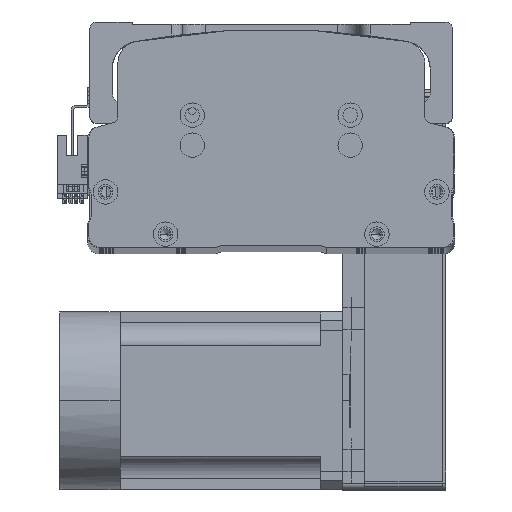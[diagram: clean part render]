
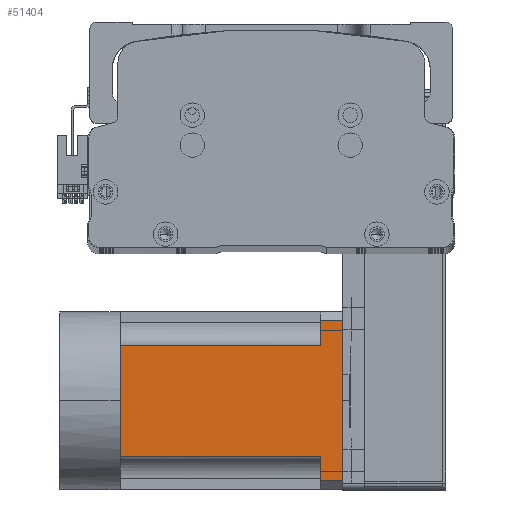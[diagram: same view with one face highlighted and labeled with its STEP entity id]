
A CAD part, top view. The second image highlights one B-rep face of the part: STEP entity #51404.
In plain terms, the highlighted planar face has unit normal (0, 0, 1) as drawn and (0, 0, -1) by its records, which use the part's own axes.
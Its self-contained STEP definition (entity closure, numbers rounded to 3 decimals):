
#546 = EDGE_CURVE ( 'NONE', #62791, #7762, #40500, .T. ) ;
#779 = CARTESIAN_POINT ( 'NONE',  ( -25., -27., -40. ) ) ;
#1536 = LINE ( 'NONE', #3391, #40121 ) ;
#3231 = VERTEX_POINT ( 'NONE', #22191 ) ;
#3391 = CARTESIAN_POINT ( 'NONE',  ( -40., 90., -40. ) ) ;
#6053 = DIRECTION ( 'NONE',  ( 0., 1., 0. ) ) ;
#7392 = LINE ( 'NONE', #40406, #47573 ) ;
#7762 = VERTEX_POINT ( 'NONE', #7945 ) ;
#7945 = CARTESIAN_POINT ( 'NONE',  ( -36., 90., -40. ) ) ;
#8671 = DIRECTION ( 'NONE',  ( -1., 0., 0. ) ) ;
#9011 = DIRECTION ( 'NONE',  ( -1., 0., 0. ) ) ;
#9409 = ORIENTED_EDGE ( 'NONE', *, *, #19018, .T. ) ;
#9985 = CARTESIAN_POINT ( 'NONE',  ( 25., 90., -40. ) ) ;
#9987 = VECTOR ( 'NONE', #6053, 1000. ) ;
#14056 = DIRECTION ( 'NONE',  ( 0., 0., -1. ) ) ;
#14927 = EDGE_CURVE ( 'NONE', #44709, #38847, #65291, .T. ) ;
#16312 = CARTESIAN_POINT ( 'NONE',  ( 36., -27., -40. ) ) ;
#17372 = EDGE_CURVE ( 'NONE', #3231, #45386, #41229, .T. ) ;
#18692 = EDGE_CURVE ( 'NONE', #7762, #23780, #26185, .T. ) ;
#19018 = EDGE_CURVE ( 'NONE', #38847, #27234, #1536, .T. ) ;
#20635 = ORIENTED_EDGE ( 'NONE', *, *, #52297, .T. ) ;
#21456 = CARTESIAN_POINT ( 'NONE',  ( 25., 0., -40. ) ) ;
#22191 = CARTESIAN_POINT ( 'NONE',  ( 0., 0., -40. ) ) ;
#22220 = EDGE_LOOP ( 'NONE', ( #57697, #53187, #9409, #50174, #20635, #37195, #43012, #47983, #23485 ) ) ;
#22385 = DIRECTION ( 'NONE',  ( -1., 0., 0. ) ) ;
#23485 = ORIENTED_EDGE ( 'NONE', *, *, #18692, .T. ) ;
#23780 = VERTEX_POINT ( 'NONE', #34127 ) ;
#23912 = LINE ( 'NONE', #779, #9987 ) ;
#24871 = VECTOR ( 'NONE', #32622, 1000. ) ;
#25186 = FACE_OUTER_BOUND ( 'NONE', #22220, .T. ) ;
#25237 = LINE ( 'NONE', #58966, #66980 ) ;
#26185 = LINE ( 'NONE', #51098, #66299 ) ;
#26748 = CARTESIAN_POINT ( 'NONE',  ( -25., 0., -40. ) ) ;
#27234 = VERTEX_POINT ( 'NONE', #9985 ) ;
#27350 = CARTESIAN_POINT ( 'NONE',  ( -40., 90., -40. ) ) ;
#29446 = LINE ( 'NONE', #52076, #55632 ) ;
#32622 = DIRECTION ( 'NONE',  ( -1., 0., 0. ) ) ;
#32684 = CARTESIAN_POINT ( 'NONE',  ( -40., 0., -40. ) ) ;
#34127 = CARTESIAN_POINT ( 'NONE',  ( -36., 100., -40. ) ) ;
#35142 = CARTESIAN_POINT ( 'NONE',  ( -40., -27., -40. ) ) ;
#36285 = DIRECTION ( 'NONE',  ( 0., -1., 0. ) ) ;
#37195 = ORIENTED_EDGE ( 'NONE', *, *, #17372, .T. ) ;
#37507 = VECTOR ( 'NONE', #52965, 1000. ) ;
#38847 = VERTEX_POINT ( 'NONE', #61703 ) ;
#40121 = VECTOR ( 'NONE', #8671, 1000. ) ;
#40406 = CARTESIAN_POINT ( 'NONE',  ( -40., 100., -40. ) ) ;
#40500 = LINE ( 'NONE', #27350, #24871 ) ;
#41229 = LINE ( 'NONE', #32684, #53419 ) ;
#41957 = AXIS2_PLACEMENT_3D ( 'NONE', #35142, #14056, #50947 ) ;
#43012 = ORIENTED_EDGE ( 'NONE', *, *, #63572, .T. ) ;
#44709 = VERTEX_POINT ( 'NONE', #45008 ) ;
#45008 = CARTESIAN_POINT ( 'NONE',  ( 36., 100., -40. ) ) ;
#45386 = VERTEX_POINT ( 'NONE', #26748 ) ;
#45694 = PLANE ( 'NONE',  #41957 ) ;
#47573 = VECTOR ( 'NONE', #9011, 1000. ) ;
#47983 = ORIENTED_EDGE ( 'NONE', *, *, #546, .T. ) ;
#50174 = ORIENTED_EDGE ( 'NONE', *, *, #65231, .T. ) ;
#50419 = CARTESIAN_POINT ( 'NONE',  ( -25., 90., -40. ) ) ;
#50947 = DIRECTION ( 'NONE',  ( -1., 0., 0. ) ) ;
#51098 = CARTESIAN_POINT ( 'NONE',  ( -36., -27., -40. ) ) ;
#51404 = ADVANCED_FACE ( 'NONE', ( #25186 ), #45694, .T. ) ;
#52076 = CARTESIAN_POINT ( 'NONE',  ( 25., -27., -40. ) ) ;
#52297 = EDGE_CURVE ( 'NONE', #61489, #3231, #25237, .T. ) ;
#52965 = DIRECTION ( 'NONE',  ( 0., -1., 0. ) ) ;
#53187 = ORIENTED_EDGE ( 'NONE', *, *, #14927, .T. ) ;
#53419 = VECTOR ( 'NONE', #53495, 1000. ) ;
#53495 = DIRECTION ( 'NONE',  ( -1., 0., 0. ) ) ;
#55632 = VECTOR ( 'NONE', #36285, 1000. ) ;
#57697 = ORIENTED_EDGE ( 'NONE', *, *, #61272, .F. ) ;
#58966 = CARTESIAN_POINT ( 'NONE',  ( -40., 0., -40. ) ) ;
#61272 = EDGE_CURVE ( 'NONE', #44709, #23780, #7392, .T. ) ;
#61489 = VERTEX_POINT ( 'NONE', #21456 ) ;
#61703 = CARTESIAN_POINT ( 'NONE',  ( 36., 90., -40. ) ) ;
#62791 = VERTEX_POINT ( 'NONE', #50419 ) ;
#63572 = EDGE_CURVE ( 'NONE', #45386, #62791, #23912, .T. ) ;
#65231 = EDGE_CURVE ( 'NONE', #27234, #61489, #29446, .T. ) ;
#65291 = LINE ( 'NONE', #16312, #37507 ) ;
#66299 = VECTOR ( 'NONE', #66805, 1000. ) ;
#66805 = DIRECTION ( 'NONE',  ( 0., 1., 0. ) ) ;
#66980 = VECTOR ( 'NONE', #22385, 1000. ) ;
